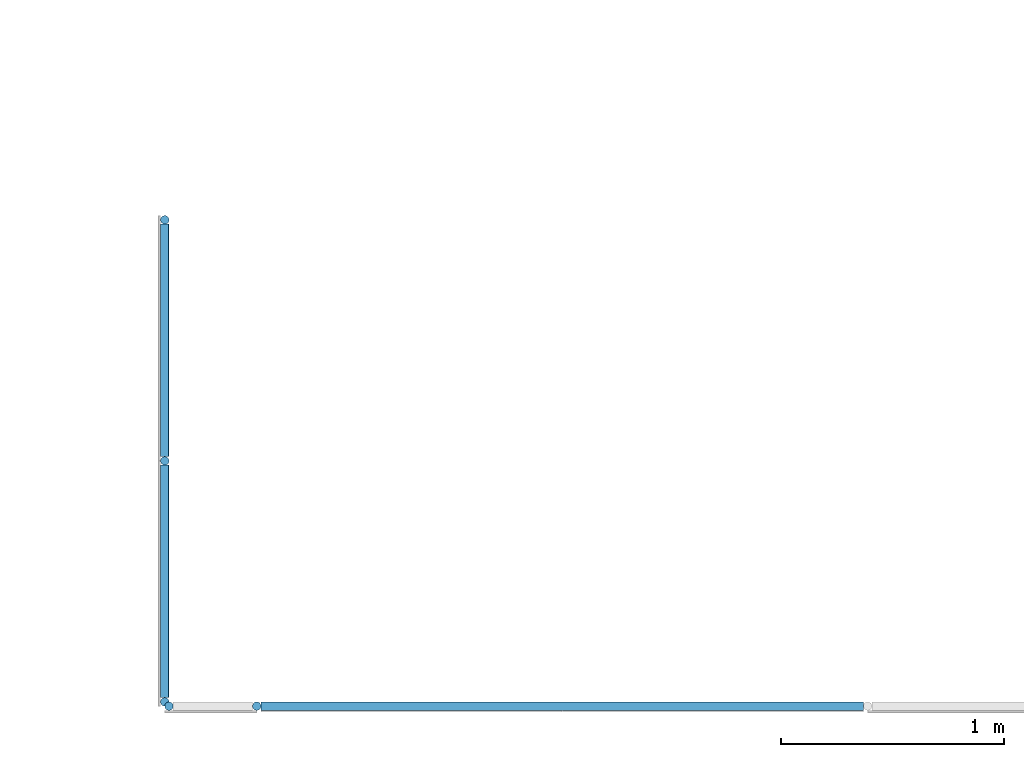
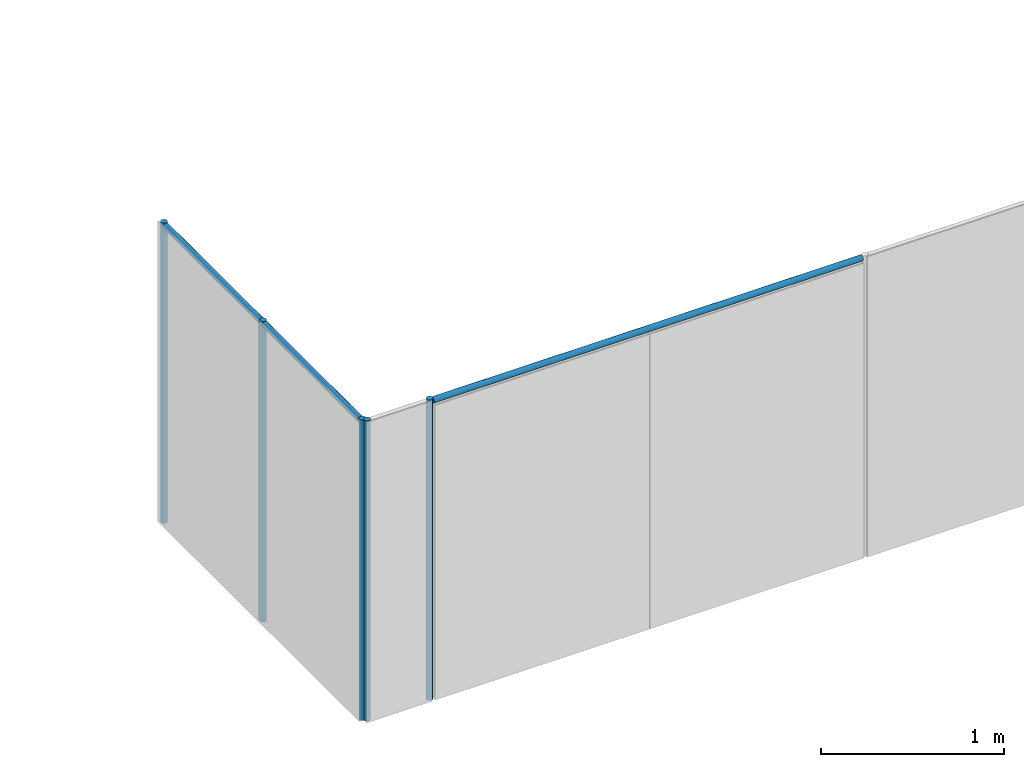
# One storey, part 1 of 82: 8 members, 2 elements without a shape of their own.
"""IFC2X3 building model written with IfcOpenShell, lengths in metres."""

import ifcopenshell
import ifcopenshell.guid

model = None  # the IFC model being written
_history = None  # IfcOwnerHistory: only IFC2X3 demands one
_inside = {}  # id of a spatial element -> (the spatial element, [elements in it])
_under = {}  # id of a project, library or spatial element -> (it, [spatial elements below it])
_declared = {}  # id of a project -> (the project, [libraries it declares])
_typed = {}  # id of a type object -> (the type object, [elements of that type])
_made_of = {}  # id of a material, layer set ... -> (it, [elements and type objects made of it])


def new_model(schema):
    """Start an empty IFC model of exactly this schema.

    Asked for "IFC4X3", IfcOpenShell would pick the latest addendum, in which some entities
    have other attributes; the version numbers below select the first issue.
    IFC2X3 requires an IfcOwnerHistory on every rooted entity: one is made here for all.
    """
    global model, _history
    if schema == "IFC4X3":
        model = ifcopenshell.file(schema_version=(4, 3, 0, 0))
    else:
        model = ifcopenshell.file(schema=schema)
    _inside.clear()
    _under.clear()
    _declared.clear()
    _typed.clear()
    _made_of.clear()
    _history = None
    if model.schema == "IFC2X3":
        org = make("IfcOrganization", Name="unknown")
        user = make(
            "IfcPersonAndOrganization",
            ThePerson=make("IfcPerson", FamilyName="unknown"),
            TheOrganization=org,
        )
        app = make(
            "IfcApplication",
            ApplicationDeveloper=org,
            Version="unknown",
            ApplicationFullName="unknown",
            ApplicationIdentifier="unknown",
        )
        _history = make(
            "IfcOwnerHistory",
            OwningUser=user,
            OwningApplication=app,
            ChangeAction="ADDED",
            CreationDate=0,
        )
    return model


def make(cls, **values):
    """One entity of the class cls with the attributes given. An attribute that is None is left unset."""
    return model.create_entity(
        cls, **{name: value for name, value in values.items() if value is not None}
    )


def entity(cls, *values):
    """Any entity or typed value of the class cls, its attributes in the order of the schema. None: left unset."""
    e = model.create_entity(cls)
    for i, value in enumerate(values):
        if value is not None:
            e[i] = value
    return e


def rooted(cls, **values):
    """An entity with a GlobalId (a new one), such as an element, a storey or a relation."""
    return make(cls, GlobalId=ifcopenshell.guid.new(), OwnerHistory=_history, **values)


def si_unit(unit_type, name, prefix=None):
    """IfcSIUnit, for example si_unit("LENGTHUNIT", "METRE", prefix="MILLI")."""
    return make("IfcSIUnit", UnitType=unit_type, Prefix=prefix, Name=name)


def converted_unit(unit_type, name, factor, base, dimensions=None, offset=None):
    """IfcConversionBasedUnit, such as the inch: factor (a typed value) times the base unit."""
    return make(
        "IfcConversionBasedUnit"
        if offset is None
        else "IfcConversionBasedUnitWithOffset",
        ConversionOffset=offset,
        Dimensions=None
        if dimensions is None
        else entity("IfcDimensionalExponents", *dimensions),
        UnitType=unit_type,
        Name=name,
        ConversionFactor=make(
            "IfcMeasureWithUnit", ValueComponent=factor, UnitComponent=base
        ),
    )


def assignment(units):
    """IfcUnitAssignment: the units of a project."""
    return None if units is None else make("IfcUnitAssignment", Units=units)


def point(xyz):
    """IfcCartesianPoint."""
    return None if xyz is None else make("IfcCartesianPoint", Coordinates=xyz)


def direction(xyz):
    """IfcDirection."""
    return None if xyz is None else make("IfcDirection", DirectionRatios=xyz)


def frame(location, z_axis=None, x_axis=None):
    """IfcAxis2Placement3D, a coordinate frame: its origin and axes. An axis left out is left unset."""
    return make(
        "IfcAxis2Placement3D",
        Location=point(location),
        Axis=direction(z_axis),
        RefDirection=direction(x_axis),
    )


def frame_2d(location, x_axis=None):
    """IfcAxis2Placement2D, a coordinate frame in the plane: its origin and x axis."""
    return make(
        "IfcAxis2Placement2D", Location=point(location), RefDirection=direction(x_axis)
    )


def origin():
    """The frame at (0, 0, 0) with its axes left unset."""
    return frame((0.0, 0.0, 0.0))


def origin_2d_with_axis():
    """The frame at (0, 0) in the plane with the x axis (1, 0) written out."""
    return frame_2d((0.0, 0.0), x_axis=(1.0, 0.0))


def place(relative_to, where):
    """IfcLocalPlacement: puts the frame where relative to a parent placement (None: the world)."""
    return make(
        "IfcLocalPlacement", PlacementRelTo=relative_to, RelativePlacement=where
    )


def context(
    kind, dimensions, precision=None, world=None, true_north=None, identifier=None
):
    """IfcGeometricRepresentationContext, for example the 3D "Model" context."""
    return make(
        "IfcGeometricRepresentationContext",
        ContextIdentifier=identifier,
        ContextType=kind,
        CoordinateSpaceDimension=dimensions,
        Precision=precision,
        WorldCoordinateSystem=world,
        TrueNorth=true_north,
    )


def project(units=None, contexts=None):
    """IfcProject with its units and contexts."""
    return rooted(
        "IfcProject",
        Name="project",
        RepresentationContexts=contexts,
        UnitsInContext=assignment(units),
    )


def spatial(cls, under=None, at=None, **own):
    """A site, building, storey or space (cls), placed at a placement, below another one or the project."""
    s = rooted(cls, ObjectPlacement=at, **own)
    if under is not None:
        _under.setdefault(under.id(), (under, []))[1].append(s)
    return s


def profile(cls, at=None, kind="AREA", **sizes):
    """A parametric profile (cls). Its sizes go by their IFC names, for example OverallWidth=200.0."""
    return make(cls, ProfileType=kind, Position=at, **sizes)


def circle(**sizes):
    """IfcCircleProfileDef."""
    return profile("IfcCircleProfileDef", **sizes)


def extrude(swept, where, along, depth):
    """IfcExtrudedAreaSolid: the profile swept, set in the frame where, extruded along a direction by depth."""
    return make(
        "IfcExtrudedAreaSolid",
        SweptArea=swept,
        Position=where,
        ExtrudedDirection=direction(along),
        Depth=depth,
    )


def shape(context_of_items, identifier, shape_type, items):
    """IfcShapeRepresentation: the items that make up one representation, for example the "Body"."""
    return make(
        "IfcShapeRepresentation",
        ContextOfItems=context_of_items,
        RepresentationIdentifier=identifier,
        RepresentationType=shape_type,
        Items=items,
    )


def source(mapping_origin, context_of_items, identifier, shape_type, items):
    """IfcRepresentationMap: a shape defined once, which mapped items show again and again."""
    return make(
        "IfcRepresentationMap",
        MappingOrigin=mapping_origin,
        MappedRepresentation=shape(context_of_items, identifier, shape_type, items),
    )


def transform(
    local_origin,
    x_axis=None,
    y_axis=None,
    z_axis=None,
    scale=None,
    scale2=None,
    scale3=None,
    uniform=True,
):
    """IfcCartesianTransformationOperator3D, or its non-uniform kind. x_axis, y_axis, z_axis: its Axis1, 2, 3."""
    if uniform:
        return make(
            "IfcCartesianTransformationOperator3D",
            Axis1=direction(x_axis),
            Axis2=direction(y_axis),
            LocalOrigin=point(local_origin),
            Scale=scale,
            Axis3=direction(z_axis),
        )
    return make(
        "IfcCartesianTransformationOperator3DnonUniform",
        Axis1=direction(x_axis),
        Axis2=direction(y_axis),
        LocalOrigin=point(local_origin),
        Scale=scale,
        Axis3=direction(z_axis),
        Scale2=scale2,
        Scale3=scale3,
    )


def mapped(mapping_source, mapping_target):
    """IfcMappedItem: shows the shape of a source again, moved by a transform."""
    return make(
        "IfcMappedItem", MappingSource=mapping_source, MappingTarget=mapping_target
    )


def material(Name=None, Category=None):
    """IfcMaterial."""
    return make("IfcMaterial", Name=Name, Category=Category)


def made_of(thing, what):
    """Note that an element or type object is made of a material, layer set ...; save() writes the relation."""
    if what is not None:
        _made_of.setdefault(what.id(), (what, []))[1].append(thing)
    return thing


def type_object(cls, material=None, **own):
    """A type object (cls), such as IfcWallType, which elements share."""
    return made_of(rooted(cls, **own), material)


def type_shapes(of_type, sources):
    """Give a type object the sources (RepresentationMaps) that its elements show as mapped items."""
    of_type.RepresentationMaps = sources


def element(
    cls,
    number,
    at=None,
    inside=None,
    cuts=None,
    type_object=None,
    material=None,
    context=None,
    identifier="Body",
    shape_type=None,
    held_by="IfcProductDefinitionShape",
    body=None,
    shapes=None,
    **own,
):
    """One element of the class cls, such as IfcWall. Its Tag is "e" and its number.

    at: its placement. inside: the storey or other place that contains it. cuts: it is an
    opening in that element (IfcRelVoidsElement). A single representation is given by context,
    identifier, shape_type and body (its items); several are given by shapes. held_by: the class
    of the entity that holds the representations. save() writes the other relations.
    """
    e = rooted(cls, Tag="e%d" % number, ObjectPlacement=at, **own)
    if body is not None:
        shapes = [shape(context, identifier, shape_type, body)]
    if shapes is not None:
        e.Representation = make(held_by, Representations=shapes)
    if inside is not None:
        _inside.setdefault(inside.id(), (inside, []))[1].append(e)
    if cuts is not None:
        rooted(
            "IfcRelVoidsElement", RelatingBuildingElement=cuts, RelatedOpeningElement=e
        )
    if type_object is not None:
        _typed.setdefault(type_object.id(), (type_object, []))[1].append(e)
    return made_of(e, material)


def aggregate(whole, parts):
    """IfcRelAggregates: a whole, such as a stair, and the parts it consists of."""
    return rooted("IfcRelAggregates", RelatingObject=whole, RelatedObjects=parts)


def save(model, path):
    """Write the relations noted so far, then the file.

    IfcRelAggregates (storeys below a building ...), IfcRelContainedInSpatialStructure (elements
    in a storey), IfcRelDefinesByType, IfcRelAssociatesMaterial and IfcRelDeclares: one each for
    every whole, place, type object, material and project.
    """
    for whole, parts in _under.values():
        aggregate(whole, parts)
    for where, things in _inside.values():
        rooted(
            "IfcRelContainedInSpatialStructure",
            RelatedElements=things,
            RelatingStructure=where,
        )
    for kind, things in _typed.values():
        rooted("IfcRelDefinesByType", RelatedObjects=things, RelatingType=kind)
    for what, things in _made_of.values():
        rooted("IfcRelAssociatesMaterial", RelatedObjects=things, RelatingMaterial=what)
    for by, libraries in _declared.values():
        rooted("IfcRelDeclares", RelatingContext=by, RelatedDefinitions=libraries)
    model.write(path)


model = new_model("IFC2X3")

# Units and contexts
model_context = context("Model", 3, precision=1e-09, world=origin())
plan_context = context("Plan", 3, precision=1e-09, world=origin())
ifc_project = project(units=[si_unit("LENGTHUNIT", "METRE"), si_unit("AREAUNIT", "SQUARE_METRE"), si_unit("VOLUMEUNIT", "CUBIC_METRE"), converted_unit("PLANEANGLEUNIT", "DEGREE", entity("IfcRatioMeasure", 0.01745329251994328), si_unit("PLANEANGLEUNIT", "RADIAN"), dimensions=[0, 0, 0, 0, 0, 0, 0]), si_unit("TIMEUNIT", "SECOND")], contexts=[model_context, plan_context])

# Site, building, storey
site_placement = place(None, origin())
site = spatial("IfcSite", under=ifc_project, at=site_placement, Name="Default", CompositionType="ELEMENT")
building_placement = place(site_placement, origin())
building = spatial("IfcBuilding", under=site, at=building_placement, CompositionType="ELEMENT")
storey_placement = place(building_placement, origin())
storey = spatial("IfcBuildingStorey", under=building, at=storey_placement, Name="First Floor", CompositionType="ELEMENT", Elevation=-3.531500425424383e-13)

# Curtain wall, members
curtain_wall_1_placement = place(storey_placement, origin())
curtain_wall_1 = element("IfcCurtainWall", 1, at=curtain_wall_1_placement, inside=storey, Name="Curtain Wall:Chain Link Fence", ObjectType="Curtain Wall:Chain Link Fence")
ifc_material = material(Name="Metal - Aluminium")
member_type_1 = type_object("IfcMemberType", Name="19mm Radius", PredefinedType="MULLION")
shared_shape_1 = source(origin(), model_context, "Body", "SweptSolid", [
    extrude(circle(Radius=0.019, at=origin_2d_with_axis()), frame((-0.019, 0.0, -2.0)), (0.0, 0.0, 1.0), 2.0),
])
type_shapes(member_type_1, [shared_shape_1])
placement = place(building_placement, frame((0.0, 0.0, -1.0)))
member_1_placement = place(placement, frame((-38.46173820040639, -7.354161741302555, 0.0), z_axis=(0.0, 0.0, -1.0), x_axis=(0.0, 1.0, 0.0)))
member_1 = element("IfcMember", 2, at=member_1_placement, type_object=member_type_1, material=ifc_material, Name="Circular Mullion:19mm Radius:19mm Radius", ObjectType="19mm Radius", context=model_context, shape_type="MappedRepresentation", body=[
    mapped(shared_shape_1, transform((0.0, 0.0, 0.0), scale=1.0)),
])
member_type_2 = type_object("IfcMemberType", Name="19mm Radius", PredefinedType="MULLION")
type_shapes(member_type_2, [shared_shape_1])
member_2_placement = place(placement, frame((-38.4617382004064, -9.554161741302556, 2.0), z_axis=(0.0, 0.0, 1.0), x_axis=(0.0, -1.0, 0.0)))
member_2 = element("IfcMember", 3, at=member_2_placement, type_object=member_type_2, material=ifc_material, Name="Circular Mullion:19mm Radius:19mm Radius", ObjectType="19mm Radius", context=model_context, shape_type="MappedRepresentation", body=[
    mapped(shared_shape_1, transform((0.0, 0.0, 0.0), scale=1.0)),
])

# Curtain wall, member
curtain_wall_2_placement = place(storey_placement, origin())
curtain_wall_2 = element("IfcCurtainWall", 4, at=curtain_wall_2_placement, inside=storey, Name="Curtain Wall:Chain Link Fence", ObjectType="Curtain Wall:Chain Link Fence")
member_type_3 = type_object("IfcMemberType", Name="19mm Radius", PredefinedType="MULLION")
type_shapes(member_type_3, [shared_shape_1])
member_3_placement = place(placement, frame((-38.4617382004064, -9.554161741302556, 2.0), z_axis=(0.0, 0.0, 1.0), x_axis=(-1.0, 0.0, 0.0)))
member_3 = element("IfcMember", 5, at=member_3_placement, type_object=member_type_3, material=ifc_material, Name="Circular Mullion:19mm Radius:19mm Radius", ObjectType="19mm Radius", context=model_context, shape_type="MappedRepresentation", body=[
    mapped(shared_shape_1, transform((0.0, 0.0, 0.0), scale=1.0)),
])

# Member
member_type_4 = type_object("IfcMemberType", Name="19mm Radius", PredefinedType="MULLION")
shared_shape_2 = source(origin(), model_context, "Body", "SweptSolid", [
    extrude(circle(Radius=0.019, at=origin_2d_with_axis()), frame((0.0, 0.0, -2.0)), (0.0, 0.0, 1.0), 2.0),
])
type_shapes(member_type_4, [shared_shape_2])
member_4_placement = place(placement, frame((-38.46173820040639, -8.454161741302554, 0.0), z_axis=(0.0, 0.0, -1.0), x_axis=(0.0, 1.0, 0.0)))
member_4 = element("IfcMember", 6, at=member_4_placement, type_object=member_type_4, material=ifc_material, Name="Circular Mullion:19mm Radius:19mm Radius", ObjectType="19mm Radius", context=model_context, shape_type="MappedRepresentation", body=[
    mapped(shared_shape_2, transform((0.0, 0.0, 0.0), scale=1.0)),
])

member_type_5 = type_object("IfcMemberType", Name="19mm Radius", PredefinedType="MULLION")
type_shapes(member_type_5, [shared_shape_2])
member_5_placement = place(placement, frame((-38.04916183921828, -9.554161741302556, 0.0), z_axis=(0.0, 0.0, -1.0), x_axis=(1.0, 0.0, 0.0)))
member_5 = element("IfcMember", 7, at=member_5_placement, type_object=member_type_5, material=ifc_material, Name="Circular Mullion:19mm Radius:19mm Radius", ObjectType="19mm Radius", context=model_context, shape_type="MappedRepresentation", body=[
    mapped(shared_shape_2, transform((0.0, 0.0, 0.0), scale=1.0)),
])

member_type_6 = type_object("IfcMemberType", Name="19mm Radius", PredefinedType="MULLION")
shared_shape_3 = source(origin(), model_context, "Body", "SweptSolid", [
    extrude(circle(Radius=0.019, at=origin_2d_with_axis()), frame((-0.019, 0.0, -2.701999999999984)), (0.0, 0.0, 1.0), 2.701999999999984),
])
type_shapes(member_type_6, [shared_shape_3])
member_6_placement = place(storey_placement, frame((-35.3281618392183, -9.554161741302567, 1.0), z_axis=(1.0, 0.0, 0.0), x_axis=(0.0, 0.0, 1.0)))
member_6 = element("IfcMember", 8, at=member_6_placement, type_object=member_type_6, material=ifc_material, Name="Circular Mullion:19mm Radius:19mm Radius", ObjectType="19mm Radius", context=model_context, shape_type="MappedRepresentation", body=[
    mapped(shared_shape_3, transform((0.0, 0.0, 0.0), scale=1.0)),
])

aggregate(curtain_wall_2, [member_5, member_6, member_3])

member_type_7 = type_object("IfcMemberType", Name="19mm Radius", PredefinedType="MULLION")
shared_shape_4 = source(origin(), model_context, "Body", "SweptSolid", [
    extrude(circle(Radius=0.019, at=origin_2d_with_axis()), frame((-0.019, 0.0, -1.043)), (0.0, 0.0, 1.0), 1.043),
])
type_shapes(member_type_7, [shared_shape_4])
member_7_placement = place(storey_placement, frame((-38.46173820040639, -7.392161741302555, 1.0), z_axis=(0.0, 1.0, 0.0), x_axis=(0.0, 0.0, 1.0)))
member_7 = element("IfcMember", 9, at=member_7_placement, type_object=member_type_7, material=ifc_material, Name="Circular Mullion:19mm Radius:19mm Radius", ObjectType="19mm Radius", context=model_context, shape_type="MappedRepresentation", body=[
    mapped(shared_shape_4, transform((0.0, 0.0, 0.0), scale=1.0)),
])

member_8_placement = place(storey_placement, frame((-38.46173820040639, -8.473161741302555, 1.0), z_axis=(0.0, 1.0, 0.0), x_axis=(0.0, 0.0, 1.0)))
member_8 = element("IfcMember", 10, at=member_8_placement, type_object=member_type_7, material=ifc_material, Name="Circular Mullion:19mm Radius:19mm Radius", ObjectType="19mm Radius", context=model_context, shape_type="MappedRepresentation", body=[
    mapped(shared_shape_4, transform((0.0, 0.0, 0.0), scale=1.0)),
])

aggregate(curtain_wall_1, [member_1, member_7, member_8, member_4, member_2])

save(model, "model.ifc")
